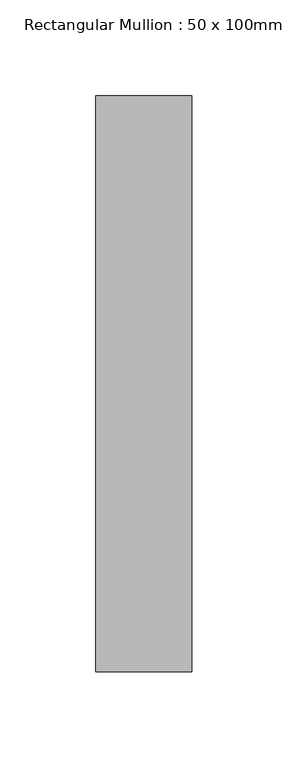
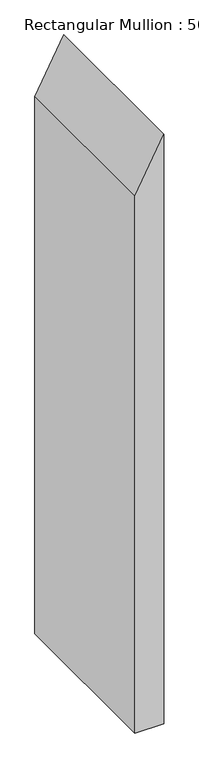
"""IFC4 building model written with IfcOpenShell, lengths in millimetres: member geometry, Rectangular Mullion : 50 x 100mm."""

from ifc_helpers import new_model, si_unit, frame, origin, place, context, project, spatial, polyline, outline, extrude, source, transform, mapped, element, save


def rectangular_mullion_50_x_100mm_46c47fc3(model_context):
    return source(origin(), model_context, "Body", "SweptSolid", [
        extrude(outline(polyline([(0.0, 0.0), (-96.0491063, -50.0), (-1078.5236025, -50.0), (-1078.5236025, 0.0), (0.0, 0.0)])), frame((0.0, -125.0, 0.0), z_axis=(0.0, 1.0, 0.0), x_axis=(0.0, 0.0, 1.0)), (0.0, 0.0, 1.0), 300.0),
    ])


if __name__ == "__main__":
    model = new_model("IFC4")
    model_context = context("Model", 3, world=origin())
    ifc_project = project(units=[si_unit("LENGTHUNIT", "METRE", prefix="MILLI")], contexts=[model_context])
    site = spatial("IfcSite", under=ifc_project)
    building = spatial("IfcBuilding", under=site)
    placement = place(None, origin())
    rectangular_mullion_50_x_100mm_shape = rectangular_mullion_50_x_100mm_46c47fc3(model_context)
    element("IfcMember", 1, ObjectType="Rectangular Mullion : 50 x 100mm", at=placement, inside=building, context=model_context, shape_type="MappedRepresentation", body=[
        mapped(rectangular_mullion_50_x_100mm_shape, transform((0.0, 0.0, 0.0), x_axis=(1.0, 0.0, 0.0), y_axis=(0.0, 1.0, 0.0), z_axis=(0.0, 0.0, 1.0))),
    ])
    save(model, "model.ifc")
